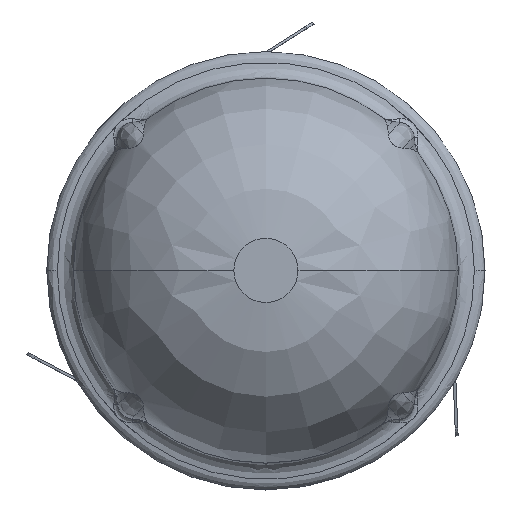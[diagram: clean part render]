
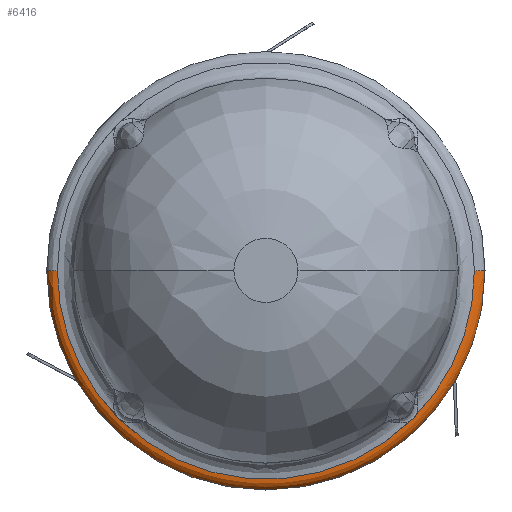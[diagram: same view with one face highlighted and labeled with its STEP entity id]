
A CAD part, top view. The second image highlights one B-rep face of the part: STEP entity #6416.
In plain terms, the highlighted free-form (B-spline) face has degree [4, 6] with [5, 7] control points.
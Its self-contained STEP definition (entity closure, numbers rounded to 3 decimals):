
#811=CARTESIAN_POINT(' ',(13.789,13.789,16.));
#812=VERTEX_POINT(' ',#811);
#826=CARTESIAN_POINT(' ',(0.,0.005,16.));
#831=DIRECTION(' ',(0.,0.,1.));
#836=DIRECTION(' ',(0.707,0.707,0.));
#841=AXIS2_PLACEMENT_3D(' ',#826,#831,#836);
#846=CIRCLE('',#841,19.496);
#851=CARTESIAN_POINT(' ',(-13.789,13.789,16.));
#852=VERTEX_POINT(' ',#851);
#856=EDGE_CURVE(' ',#812,#852,#846,.T.);
#6026=CARTESIAN_POINT(' ',(19.5,0.,16.));
#6031=CARTESIAN_POINT(' ',(19.5,10.21,16.));
#6036=CARTESIAN_POINT(' ',(13.155,20.406,16.));
#6041=CARTESIAN_POINT(' ',(0.,25.664,16.));
#6046=CARTESIAN_POINT(' ',(-13.155,20.406,16.));
#6051=CARTESIAN_POINT(' ',(-19.5,10.21,16.));
#6056=CARTESIAN_POINT(' ',(-19.5,0.,16.));
#6061=CARTESIAN_POINT(' ',(19.893,0.,16.));
#6066=CARTESIAN_POINT(' ',(19.893,10.416,16.));
#6071=CARTESIAN_POINT(' ',(13.42,20.817,16.));
#6076=CARTESIAN_POINT(' ',(0.,26.181,16.));
#6081=CARTESIAN_POINT(' ',(-13.42,20.817,16.));
#6086=CARTESIAN_POINT(' ',(-19.893,10.416,16.));
#6091=CARTESIAN_POINT(' ',(-19.893,0.,16.));
#6096=CARTESIAN_POINT(' ',(20.29,0.,15.79));
#6101=CARTESIAN_POINT(' ',(20.29,10.624,15.79));
#6106=CARTESIAN_POINT(' ',(13.688,21.234,15.79));
#6111=CARTESIAN_POINT(' ',(0.,26.705,15.79));
#6116=CARTESIAN_POINT(' ',(-13.688,21.234,15.79));
#6121=CARTESIAN_POINT(' ',(-20.29,10.624,15.79));
#6126=CARTESIAN_POINT(' ',(-20.29,0.,15.79));
#6131=CARTESIAN_POINT(' ',(20.5,0.,15.393));
#6136=CARTESIAN_POINT(' ',(20.5,10.734,15.393));
#6141=CARTESIAN_POINT(' ',(13.829,21.453,15.393));
#6146=CARTESIAN_POINT(' ',(0.,26.981,15.393));
#6151=CARTESIAN_POINT(' ',(-13.829,21.453,15.393));
#6156=CARTESIAN_POINT(' ',(-20.5,10.734,15.393));
#6161=CARTESIAN_POINT(' ',(-20.5,0.,15.393));
#6166=CARTESIAN_POINT(' ',(20.5,0.,15.));
#6171=CARTESIAN_POINT(' ',(20.5,10.734,15.));
#6176=CARTESIAN_POINT(' ',(13.829,21.453,15.));
#6181=CARTESIAN_POINT(' ',(0.,26.981,15.));
#6186=CARTESIAN_POINT(' ',(-13.829,21.453,15.));
#6191=CARTESIAN_POINT(' ',(-20.5,10.734,15.));
#6196=CARTESIAN_POINT(' ',(-20.5,0.,15.));
#6201=B_SPLINE_SURFACE_WITH_KNOTS(' ',4,6,((#6026,#6031,#6036,#6041,#6046,#6051,#6056),(#6061,#6066,#6071,#6076,#6081,#6086,#6091),(#6096,#6101,#6106,#6111,#6116,#6121,#6126),(#6131,#6136,#6141,#6146,#6151,#6156,#6161),(#6166,#6171,#6176,#6181,#6186,#6191,#6196)),.UNSPECIFIED.,.F.,.F.,.U.,(5,5),(7,7),(0.,1.),(0.,1.),.UNSPECIFIED.);
#6206=CARTESIAN_POINT(' ',(-19.5,0.,15.));
#6211=DIRECTION(' ',(0.,-1.,0.));
#6216=DIRECTION(' ',(0.,0.,1.));
#6221=AXIS2_PLACEMENT_3D(' ',#6206,#6211,#6216);
#6226=CIRCLE('',#6221,1.);
#6231=CARTESIAN_POINT(' ',(-19.5,0.,16.));
#6232=VERTEX_POINT(' ',#6231);
#6236=CARTESIAN_POINT(' ',(-20.5,0.,15.));
#6237=VERTEX_POINT(' ',#6236);
#6241=EDGE_CURVE(' ',#6232,#6237,#6226,.T.);
#6246=ORIENTED_EDGE(' ',*,*,#6241,.F.);
#6251=CARTESIAN_POINT(' ',(0.006,-0.002,16.));
#6256=DIRECTION(' ',(0.,0.,1.));
#6261=DIRECTION(' ',(-0.707,0.707,0.));
#6266=AXIS2_PLACEMENT_3D(' ',#6251,#6256,#6261);
#6271=CIRCLE('',#6266,19.506);
#6276=EDGE_CURVE(' ',#852,#6232,#6271,.T.);
#6281=ORIENTED_EDGE(' ',*,*,#6276,.F.);
#6286=ORIENTED_EDGE(' ',*,*,#856,.F.);
#6291=CARTESIAN_POINT(' ',(-0.005,-0.002,16.));
#6296=DIRECTION(' ',(0.,0.,1.));
#6301=DIRECTION(' ',(1.,0.,0.));
#6306=AXIS2_PLACEMENT_3D(' ',#6291,#6296,#6301);
#6311=CIRCLE('',#6306,19.505);
#6316=CARTESIAN_POINT(' ',(19.5,0.,16.));
#6317=VERTEX_POINT(' ',#6316);
#6321=EDGE_CURVE(' ',#6317,#812,#6311,.T.);
#6326=ORIENTED_EDGE(' ',*,*,#6321,.F.);
#6331=CARTESIAN_POINT(' ',(19.5,0.,15.));
#6336=DIRECTION(' ',(0.,1.,0.));
#6341=DIRECTION(' ',(0.,0.,1.));
#6346=AXIS2_PLACEMENT_3D(' ',#6331,#6336,#6341);
#6351=CIRCLE('',#6346,1.);
#6356=CARTESIAN_POINT(' ',(20.5,0.,15.));
#6357=VERTEX_POINT(' ',#6356);
#6361=EDGE_CURVE(' ',#6317,#6357,#6351,.T.);
#6366=ORIENTED_EDGE(' ',*,*,#6361,.T.);
#6371=CARTESIAN_POINT(' ',(0.,0.,15.));
#6376=DIRECTION(' ',(0.,-0.,-1.));
#6381=DIRECTION(' ',(-1.,0.,0.));
#6386=AXIS2_PLACEMENT_3D(' ',#6371,#6376,#6381);
#6391=CIRCLE('',#6386,20.5);
#6396=EDGE_CURVE(' ',#6237,#6357,#6391,.T.);
#6401=ORIENTED_EDGE(' ',*,*,#6396,.F.);
#6406=EDGE_LOOP(' ',(#6246,#6281,#6286,#6326,#6366,#6401));
#6411=FACE_OUTER_BOUND(' ',#6406,.T.);
#6416=ADVANCED_FACE('',(#6411),#6201,.T.);
